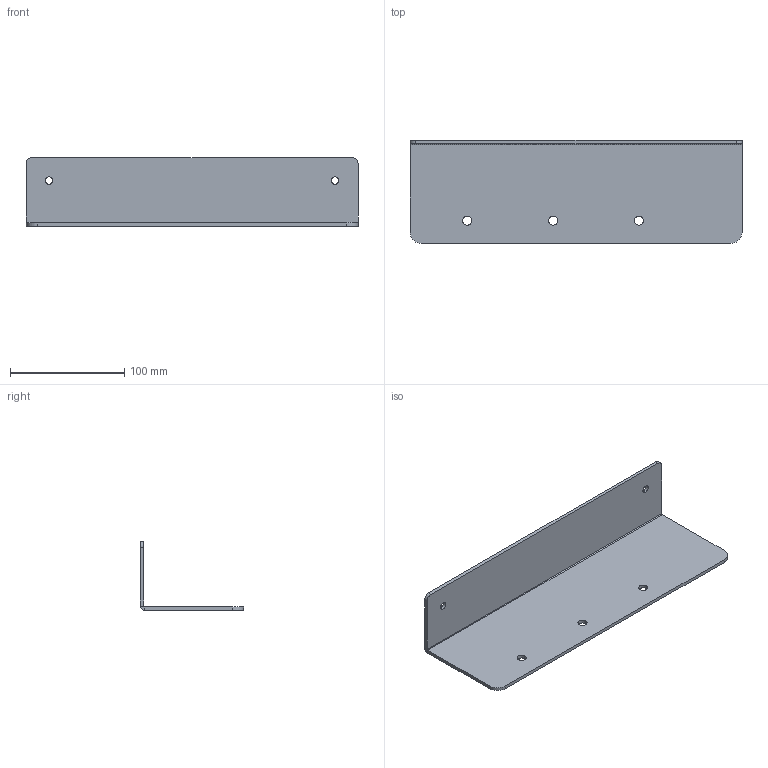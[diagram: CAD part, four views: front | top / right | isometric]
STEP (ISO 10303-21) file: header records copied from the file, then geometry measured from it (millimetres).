
FILE_DESCRIPTION (( 'STEP AP203' ), '1' );
FILE_NAME ('99-400244-05-000~0.STEP', '2006-10-04T15:31:32', ( '.' ), ( '.' ), 'SwSTEP 2.0', 'SolidWorks 2006089', '' );
FILE_SCHEMA (( 'CONFIG_CONTROL_DESIGN' ));
Length unit declared in the file: millimetre
Products named in the file (1): 99-400244-05-000~0
Bounding box: 290 x 90 x 60 mm (x, y, z)
Volume: 126242.4 mm3; surface area: 87087.9 mm2
Topology: 1 solids, 1 shells, 28 faces, 70 edges, 44 vertices
Faces by surface type: cylinder 16, plane 12
Entity records: 939 total; most frequent: DIRECTION 160, CARTESIAN_POINT 143, ORIENTED_EDGE 140, EDGE_CURVE 70, AXIS2_PLACEMENT_3D 61, VERTEX_POINT 44, EDGE_LOOP 38, VECTOR 38
